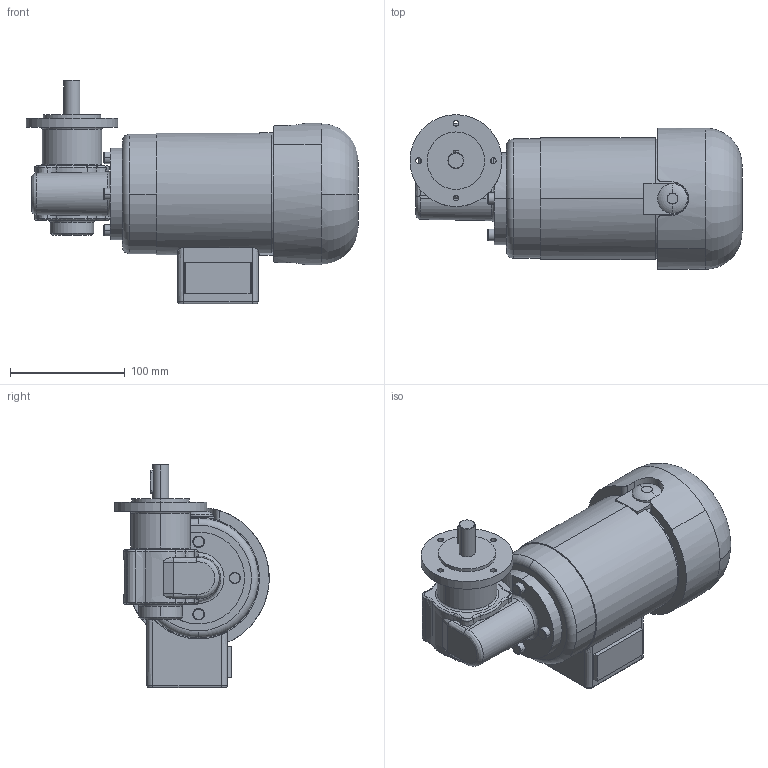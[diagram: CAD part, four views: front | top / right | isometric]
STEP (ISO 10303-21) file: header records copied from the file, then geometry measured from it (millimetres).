
FILE_DESCRIPTION(('OneSpaceDesigner STEP Export'),'2;1');
FILE_NAME('KGOG61-62_GF132-10_E.stp','2008-08-18T10:54:28',(''),(''),'OneSpace Designer STEP processor (Jan. 2003) for AP214(CD)(Solid Model)','OneSpace Designer 12.01D 09-Jul-2004 (C) CoCreate Software GmbH','');
FILE_SCHEMA(('AUTOMOTIVE_DESIGN_CC2 {1 2 10303 214 -1 1 5 1}'));
Length unit declared in the file: millimetre
Products named in the file (2): KGOG61-62_GF132-10_E
Assembly tree (1 placements, depth 2):
  KGOG61-62_GF132-10_E
    KGOG61-62_GF132-10_E
Bounding box: 289 x 134.5 x 194.5 mm (x, y, z)
Volume: 2593543.8 mm3; surface area: 142878.5 mm2
Topology: 1 solids, 1 shells, 211 faces, 534 edges, 339 vertices
Faces by surface type: cylinder 56, plane 55, bspline 47, extrusion 29, torus 14, cone 10
Entity records: 18392 total; most frequent: CARTESIAN_POINT 14211, ORIENTED_EDGE 1068, EDGE_CURVE 534, DIRECTION 522, VERTEX_POINT 339, EDGE_LOOP 233, FACE_OUTER_BOUND 211, ADVANCED_FACE 211
